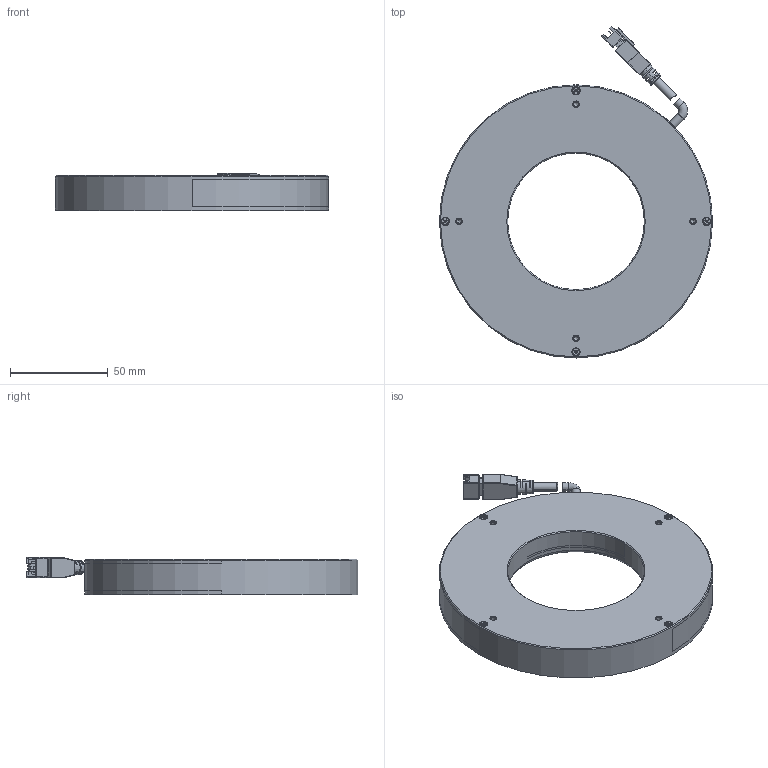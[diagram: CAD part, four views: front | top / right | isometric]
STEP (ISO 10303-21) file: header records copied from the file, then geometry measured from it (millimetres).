
FILE_DESCRIPTION((''),'2;1');
FILE_NAME('140-45','2024-01-30T13:49:16',('qiaoxuan5'),(''),'CREO PARAMETRIC BY PTC INC, 2020044','CREO PARAMETRIC BY PTC INC, 2020044','');
FILE_SCHEMA(('CONFIG_CONTROL_DESIGN'));
Length unit declared in the file: millimetre
Products named in the file (1): 140-45
Bounding box: 140 x 170.14 x 19 mm (x, y, z)
Volume: 201674 mm3; surface area: 45656.8 mm2
Topology: 2 solids, 38 shells, 735 faces, 1796 edges, 1115 vertices
Faces by surface type: plane 382, cylinder 216, cone 90, torus 30, sphere 8, bspline 8, extrusion 1
Entity records: 23757 total; most frequent: CARTESIAN_POINT 6490, DIRECTION 3661, ORIENTED_EDGE 3448, EDGE_CURVE 1764, AXIS2_PLACEMENT_3D 1324, VERTEX_POINT 1115, VECTOR 1013, LINE 1012
